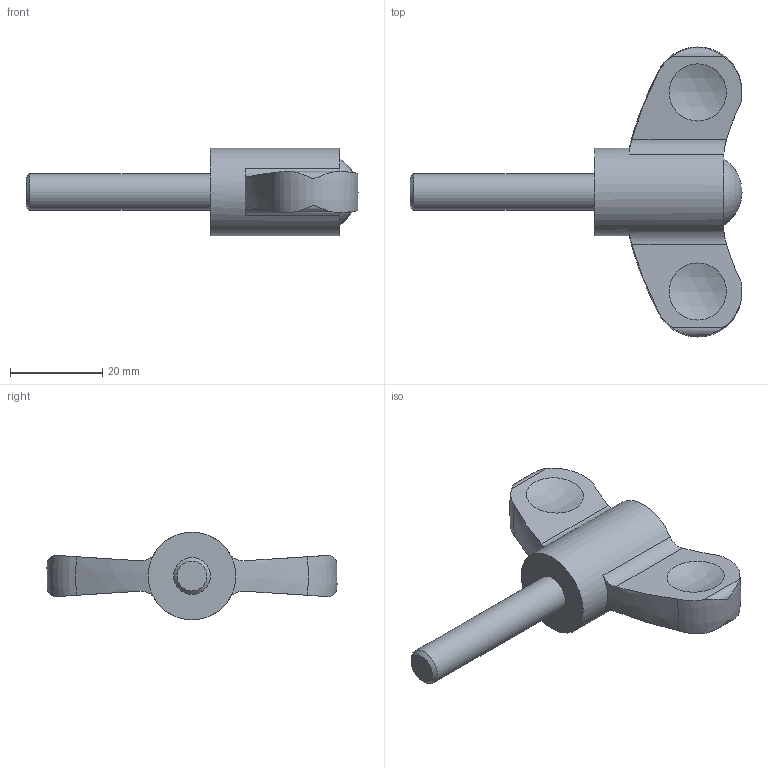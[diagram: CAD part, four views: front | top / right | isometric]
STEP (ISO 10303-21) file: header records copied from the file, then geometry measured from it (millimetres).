
FILE_DESCRIPTION( ( 'STEP AP203' ), '1' );
FILE_NAME( 'C:/Temp/Ganter_Step_05_03_2020/data/2_2/gn_633/Wing nut GN 633-63-M8-40-DRT.stp', '2020-03-05T12:21:00', ( 'License CC BY-ND 4.0' ), ( 'CADENAS' ), ' ', 'PARTsolutions', ' ' );
FILE_SCHEMA( ( 'CONFIG_CONTROL_DESIGN' ) );
Length unit declared in the file: millimetre
Products named in the file (1): _Wing nut GN 633-63-M8-40-DRT
Bounding box: 72 x 62.9 x 19 mm (x, y, z)
Volume: 16180.5 mm3; surface area: 5533.2 mm2
Topology: 1 solids, 1 shells, 28 faces, 72 edges, 50 vertices
Faces by surface type: cylinder 10, plane 6, sphere 6, bspline 3, torus 2, cone 1
Full cylindrical faces by diameter (mm): 8 x1, 19 x1
Entity records: 1177 total; most frequent: CARTESIAN_POINT 535, ORIENTED_EDGE 124, DIRECTION 108, EDGE_CURVE 62, AXIS2_PLACEMENT_3D 48, VERTEX_POINT 47, EDGE_LOOP 38, FACE_OUTER_BOUND 32
